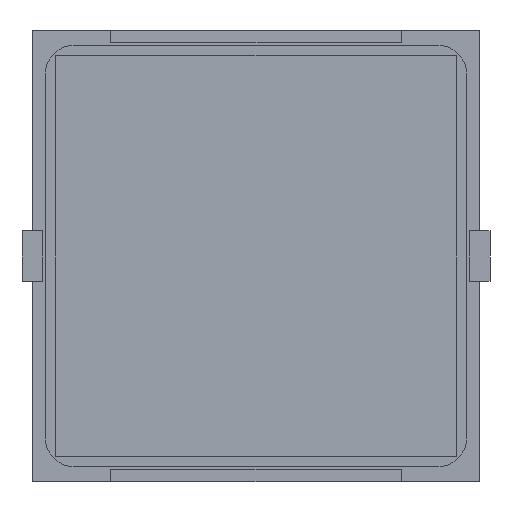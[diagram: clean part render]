
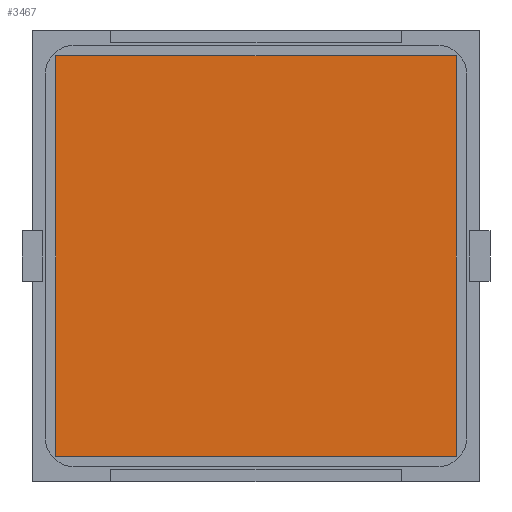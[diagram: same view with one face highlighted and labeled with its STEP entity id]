
A CAD part, front view. The second image highlights one B-rep face of the part: STEP entity #3467.
In plain terms, the highlighted planar face has unit normal (0, -1, 0).
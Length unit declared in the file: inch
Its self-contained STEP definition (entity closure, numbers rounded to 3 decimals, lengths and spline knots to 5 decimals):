
#1555 = CARTESIAN_POINT ( 'NONE',  ( -0.7874, -0.005, 0.7874 ) ) ;
#2038 = ORIENTED_EDGE ( 'NONE', *, *, #5712, .F. ) ;
#2550 = LINE ( 'NONE', #16350, #9368 ) ;
#3287 = CARTESIAN_POINT ( 'NONE',  ( 0.7874, -0.005, -0.7874 ) ) ;
#3326 = PLANE ( 'NONE',  #10424 ) ;
#3467 = ADVANCED_FACE ( 'NONE', ( #13363 ), #3326, .F. ) ;
#5122 = CARTESIAN_POINT ( 'NONE',  ( -0.7874, -0.005, -0.7874 ) ) ;
#5712 = EDGE_CURVE ( 'NONE', #17492, #11024, #7088, .T. ) ;
#6588 = ORIENTED_EDGE ( 'NONE', *, *, #20176, .F. ) ;
#6920 = VERTEX_POINT ( 'NONE', #12600 ) ;
#7088 = LINE ( 'NONE', #19075, #9012 ) ;
#7462 = DIRECTION ( 'NONE',  ( 1., 0., 0. ) ) ;
#8368 = DIRECTION ( 'NONE',  ( 0., 0., 1. ) ) ;
#8396 = ORIENTED_EDGE ( 'NONE', *, *, #21325, .F. ) ;
#8844 = DIRECTION ( 'NONE',  ( -1., 0., 0. ) ) ;
#8947 = CARTESIAN_POINT ( 'NONE',  ( -0.7874, -0.005, -0.7874 ) ) ;
#9012 = VECTOR ( 'NONE', #10526, 39.37008 ) ;
#9368 = VECTOR ( 'NONE', #7462, 39.37008 ) ;
#10424 = AXIS2_PLACEMENT_3D ( 'NONE', #1555, #15053, #8368 ) ;
#10526 = DIRECTION ( 'NONE',  ( 0., 0., -1. ) ) ;
#10858 = VECTOR ( 'NONE', #8844, 39.37008 ) ;
#11024 = VERTEX_POINT ( 'NONE', #3287 ) ;
#11456 = LINE ( 'NONE', #5122, #19750 ) ;
#11886 = DIRECTION ( 'NONE',  ( 0., 0., 1. ) ) ;
#12600 = CARTESIAN_POINT ( 'NONE',  ( -0.7874, -0.005, 0.7874 ) ) ;
#13363 = FACE_OUTER_BOUND ( 'NONE', #21373, .T. ) ;
#15053 = DIRECTION ( 'NONE',  ( 0., 1., 0. ) ) ;
#15289 = ORIENTED_EDGE ( 'NONE', *, *, #21156, .F. ) ;
#16350 = CARTESIAN_POINT ( 'NONE',  ( -0.7874, -0.005, 0.7874 ) ) ;
#17492 = VERTEX_POINT ( 'NONE', #18360 ) ;
#18360 = CARTESIAN_POINT ( 'NONE',  ( 0.7874, -0.005, 0.7874 ) ) ;
#18683 = CARTESIAN_POINT ( 'NONE',  ( -0.7874, -0.005, -0.7874 ) ) ;
#19075 = CARTESIAN_POINT ( 'NONE',  ( 0.7874, -0.005, -0.7874 ) ) ;
#19750 = VECTOR ( 'NONE', #11886, 39.37008 ) ;
#19825 = VERTEX_POINT ( 'NONE', #18683 ) ;
#20176 = EDGE_CURVE ( 'NONE', #6920, #17492, #2550, .T. ) ;
#20968 = LINE ( 'NONE', #8947, #10858 ) ;
#21156 = EDGE_CURVE ( 'NONE', #11024, #19825, #20968, .T. ) ;
#21325 = EDGE_CURVE ( 'NONE', #19825, #6920, #11456, .T. ) ;
#21373 = EDGE_LOOP ( 'NONE', ( #8396, #15289, #2038, #6588 ) ) ;
